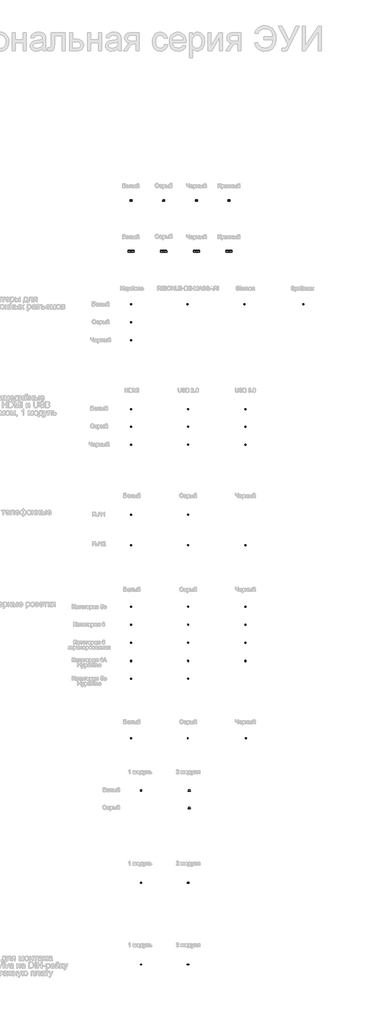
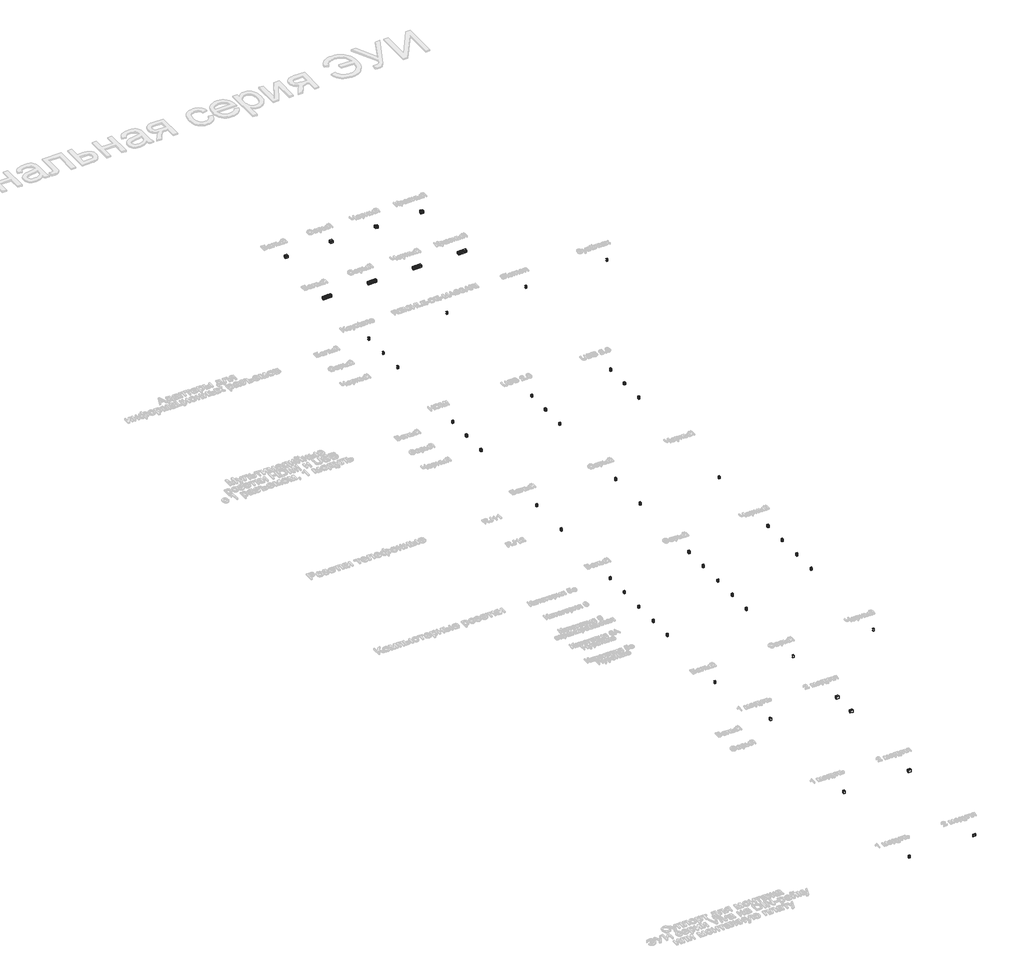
# One storey, part 1 of 15: 80 proxies.
"""IFC4 building model written with IfcOpenShell, lengths in millimetres."""

from ifc_helpers import new_model, si_unit, origin, place, context, project, spatial, transform, mapped, element, save
from components import electrical_fixtures_a915245d, electrical_fixtures_907d9c87, electrical_fixtures_2199573e, electrical_fixtures_535c511b, electrical_fixtures_a8bc6f34, electrical_fixtures_6e8f248d, electrical_fixtures_41765ffb, electrical_fixtures_416891ac, electrical_fixtures_3dbf6029, electrical_fixtures_d7c70531, electrical_fixtures_630f2619, hdmi_7d67e353, hdmi_d8834771, rj_11_aab4ea7d, rj_12_3b4863d1, rj_12_b521d4fd

model = new_model("IFC4")

# Units and contexts
model_context = context("Model", 3, world=origin())
ifc_project = project(units=[si_unit("LENGTHUNIT", "METRE", prefix="MILLI")], contexts=[model_context])

# Site, building, storey
site = spatial("IfcSite", under=ifc_project)
building = spatial("IfcBuilding", under=site)
storey = spatial("IfcBuildingStorey", under=building, Name="Этаж 01", Elevation=0.0)

# Proxies
placement = place(None, origin())
electrical_fixtures_shape = electrical_fixtures_a915245d(model_context)
element("IfcBuildingElementProxy", 1, Name="КНС_Заглушки_DKC : Заглушки", ObjectType="КНС_Заглушки_DKC : Заглушки", at=placement, inside=storey, context=model_context, shape_type="MappedRepresentation", body=[
    mapped(electrical_fixtures_shape, transform((1508.9782666, -8863.1806347, 0.0), x_axis=(1.0, 0.0, 0.0), y_axis=(0.0, 1.0, 0.0), z_axis=(0.0, 0.0, 1.0))),
])
electrical_fixtures_2_shape = electrical_fixtures_907d9c87(model_context)
element("IfcBuildingElementProxy", 2, Name="КНС_АдаптерыДляИнформационныхРазъемов_DKC : Keystone", ObjectType="КНС_АдаптерыДляИнформационныхРазъемов_DKC : Keystone", at=placement, inside=storey, context=model_context, shape_type="MappedRepresentation", body=[
    mapped(electrical_fixtures_2_shape, transform((1508.9782666, 1761.0446766, 0.0), x_axis=(1.0, 0.0, 0.0), y_axis=(0.0, 1.0, 0.0), z_axis=(0.0, 0.0, 1.0))),
])
element("IfcBuildingElementProxy", 3, Name="КНС_АдаптерыДляИнформационныхРазъемов_DKC : Systimax", ObjectType="КНС_АдаптерыДляИнформационныхРазъемов_DKC : Systimax", at=placement, inside=storey, context=model_context, shape_type="MappedRepresentation", body=[
    mapped(electrical_fixtures_2_shape, transform((5730.5654092, 1761.0446766, 0.0), x_axis=(1.0, 0.0, 0.0), y_axis=(0.0, 1.0, 0.0), z_axis=(0.0, 0.0, 1.0))),
])
element("IfcBuildingElementProxy", 4, Name="КНС_АдаптерыДляИнформационныхРазъемов_DKC : Siemon", ObjectType="КНС_АдаптерыДляИнформационныхРазъемов_DKC : Siemon", at=placement, inside=storey, context=model_context, shape_type="MappedRepresentation", body=[
    mapped(electrical_fixtures_2_shape, transform((4289.7768029, 1761.0446766, 0.0), x_axis=(1.0, 0.0, 0.0), y_axis=(0.0, 1.0, 0.0), z_axis=(0.0, 0.0, 1.0))),
])
element("IfcBuildingElementProxy", 5, Name="КНС_АдаптерыДляИнформационныхРазъемов_DKC : REICHLE-DE-MASSARI", ObjectType="КНС_АдаптерыДляИнформационныхРазъемов_DKC : REICHLE-DE-MASSARI", at=placement, inside=storey, context=model_context, shape_type="MappedRepresentation", body=[
    mapped(electrical_fixtures_2_shape, transform((2890.7972031, 1761.0446766, 0.0), x_axis=(1.0, 0.0, 0.0), y_axis=(0.0, 1.0, 0.0), z_axis=(0.0, 0.0, 1.0))),
])
electrical_fixtures_3_shape = electrical_fixtures_2199573e(model_context)
element("IfcBuildingElementProxy", 6, Name="КНС_Выключатели_DKC : 1 модуль", ObjectType="КНС_Выключатели_DKC : 1 модуль", at=placement, inside=storey, context=model_context, shape_type="MappedRepresentation", body=[
    mapped(electrical_fixtures_3_shape, transform((1755.5273557, -10143.564597, 0.0), x_axis=(1.0, 0.0, 0.0), y_axis=(0.0, 1.0, 0.0), z_axis=(0.0, 0.0, 1.0))),
])
electrical_fixtures_4_shape = electrical_fixtures_535c511b(model_context)
element("IfcBuildingElementProxy", 7, Name="КНС_Выключатели_DKC : 2 модуля", ObjectType="КНС_Выключатели_DKC : 2 модуля", at=placement, inside=storey, context=model_context, shape_type="MappedRepresentation", body=[
    mapped(electrical_fixtures_4_shape, transform((2934.3936482, -10143.564597, 0.0), x_axis=(1.0, 0.0, 0.0), y_axis=(0.0, 1.0, 0.0), z_axis=(0.0, 0.0, 1.0))),
])
electrical_fixtures_5_shape = electrical_fixtures_a8bc6f34(model_context)
element("IfcBuildingElementProxy", 8, Name="КНС_КомпьютерныеРозетки_DKC : Категория 5e", ObjectType="КНС_КомпьютерныеРозетки_DKC : Категория 5e", at=placement, inside=storey, context=model_context, shape_type="MappedRepresentation", body=[
    mapped(electrical_fixtures_5_shape, transform((1508.9782666, -5647.7205404, 0.0), x_axis=(1.0, 0.0, 0.0), y_axis=(0.0, 1.0, 0.0), z_axis=(0.0, 0.0, 1.0))),
])
element("IfcBuildingElementProxy", 9, Name="КНС_КомпьютерныеРозетки_DKC : Категория 6", ObjectType="КНС_КомпьютерныеРозетки_DKC : Категория 6", at=placement, inside=storey, context=model_context, shape_type="MappedRepresentation", body=[
    mapped(electrical_fixtures_5_shape, transform((1508.9782666, -6081.5749536, 0.0), x_axis=(1.0, 0.0, 0.0), y_axis=(0.0, 1.0, 0.0), z_axis=(0.0, 0.0, 1.0))),
])
element("IfcBuildingElementProxy", 10, Name="КНС_КомпьютерныеРозетки_DKC : Категория 6 экранированная", ObjectType="КНС_КомпьютерныеРозетки_DKC : Категория 6 экранированная", at=placement, inside=storey, context=model_context, shape_type="MappedRepresentation", body=[
    mapped(electrical_fixtures_5_shape, transform((1508.9782666, -6533.7728427, 0.0), x_axis=(1.0, 0.0, 0.0), y_axis=(0.0, 1.0, 0.0), z_axis=(0.0, 0.0, 1.0))),
])
element("IfcBuildingElementProxy", 11, Name="КНС_Переключатели_DKC : 1 модуль", ObjectType="КНС_Переключатели_DKC : 1 модуль", at=placement, inside=storey, context=model_context, shape_type="MappedRepresentation", body=[
    mapped(electrical_fixtures_3_shape, transform((1755.5273557, -12399.5827083, 0.0), x_axis=(1.0, 0.0, 0.0), y_axis=(0.0, 1.0, 0.0), z_axis=(0.0, 0.0, 1.0))),
])
element("IfcBuildingElementProxy", 12, Name="КНС_Переключатели_DKC : 2 модуля", ObjectType="КНС_Переключатели_DKC : 2 модуля", at=placement, inside=storey, context=model_context, shape_type="MappedRepresentation", body=[
    mapped(electrical_fixtures_4_shape, transform((2908.9782666, -12399.5827083, 0.0), x_axis=(1.0, 0.0, 0.0), y_axis=(0.0, 1.0, 0.0), z_axis=(0.0, 0.0, 1.0))),
])
electrical_fixtures_6_shape = electrical_fixtures_6e8f248d(model_context)
element("IfcBuildingElementProxy", 13, Name="КНС_СиловыеЭлектрическиеРозеткиШтекерныеСЗаземлениемИСоШторками_DKC : Белый", ObjectType="КНС_СиловыеЭлектрическиеРозеткиШтекерныеСЗаземлениемИСоШторками_DKC : Белый", at=placement, inside=storey, context=model_context, shape_type="MappedRepresentation", body=[
    mapped(electrical_fixtures_6_shape, transform((1508.9782666, 4310.1009019, 0.0), x_axis=(1.0, 0.0, 0.0), y_axis=(0.0, 1.0, 0.0), z_axis=(0.0, 0.0, 1.0))),
])
element("IfcBuildingElementProxy", 14, Name="КНС_СиловыеЭлектрическиеРозеткиШтекерныеСЗаземлениемИСоШторками_DKC : Красный", ObjectType="КНС_СиловыеЭлектрическиеРозеткиШтекерныеСЗаземлениемИСоШторками_DKC : Красный", at=placement, inside=storey, context=model_context, shape_type="MappedRepresentation", body=[
    mapped(electrical_fixtures_6_shape, transform((3908.9782666, 4310.1009019, 0.0), x_axis=(1.0, 0.0, 0.0), y_axis=(0.0, 1.0, 0.0), z_axis=(0.0, 0.0, 1.0))),
])
element("IfcBuildingElementProxy", 15, Name="КНС_СиловыеЭлектрическиеРозеткиШтекерныеСЗаземлениемИСоШторками_DKC : Серый", ObjectType="КНС_СиловыеЭлектрическиеРозеткиШтекерныеСЗаземлениемИСоШторками_DKC : Серый", at=placement, inside=storey, context=model_context, shape_type="MappedRepresentation", body=[
    mapped(electrical_fixtures_6_shape, transform((2308.9782666, 4310.1009019, 0.0), x_axis=(1.0, 0.0, 0.0), y_axis=(0.0, 1.0, 0.0), z_axis=(0.0, 0.0, 1.0))),
])
element("IfcBuildingElementProxy", 16, Name="КНС_СиловыеЭлектрическиеРозеткиШтекерныеСЗаземлениемИСоШторками_DKC : Черный", ObjectType="КНС_СиловыеЭлектрическиеРозеткиШтекерныеСЗаземлениемИСоШторками_DKC : Черный", at=placement, inside=storey, context=model_context, shape_type="MappedRepresentation", body=[
    mapped(electrical_fixtures_6_shape, transform((3108.9782666, 4310.1009019, 0.0), x_axis=(1.0, 0.0, 0.0), y_axis=(0.0, 1.0, 0.0), z_axis=(0.0, 0.0, 1.0))),
])
electrical_fixtures_7_shape = electrical_fixtures_41765ffb(model_context)
element("IfcBuildingElementProxy", 17, Name="КНС_СуппортДляМонтажаЭУИСерииVivaНаDIN-рейкуИлиМонтажнуюПлату_DKC : 2 модуля", ObjectType="КНС_СуппортДляМонтажаЭУИСерииVivaНаDIN-рейкуИлиМонтажнуюПлату_DKC : 2 модуля", at=placement, inside=storey, context=model_context, shape_type="MappedRepresentation", body=[
    mapped(electrical_fixtures_7_shape, transform((2908.9782666, -14424.2553633, 0.0), x_axis=(1.0, 0.0, 0.0), y_axis=(0.0, 1.0, 0.0), z_axis=(0.0, 0.0, 1.0))),
])
electrical_fixtures_8_shape = electrical_fixtures_416891ac(model_context)
element("IfcBuildingElementProxy", 18, Name="КНС_СуппортДляМонтажаЭУИСерииVivaНаDIN-рейкуИлиМонтажнуюПлату_DKC : 1 модуль", ObjectType="КНС_СуппортДляМонтажаЭУИСерииVivaНаDIN-рейкуИлиМонтажнуюПлату_DKC : 1 модуль", at=placement, inside=storey, context=model_context, shape_type="MappedRepresentation", body=[
    mapped(electrical_fixtures_8_shape, transform((1508.9782666, -5659.7205404, 0.0), x_axis=(1.0, 0.0, 0.0), y_axis=(0.0, 1.0, 0.0), z_axis=(0.0, 0.0, 1.0))),
])
element("IfcBuildingElementProxy", 19, Name="КНС_СуппортДляМонтажаЭУИСерииVivaНаDIN-рейкуИлиМонтажнуюПлату_DKC : 1 модуль", ObjectType="КНС_СуппортДляМонтажаЭУИСерииVivaНаDIN-рейкуИлиМонтажнуюПлату_DKC : 1 модуль", at=placement, inside=storey, context=model_context, shape_type="MappedRepresentation", body=[
    mapped(electrical_fixtures_8_shape, transform((1508.9782666, -826.6427411, 0.0), x_axis=(1.0, 0.0, 0.0), y_axis=(0.0, 1.0, 0.0), z_axis=(0.0, 0.0, 1.0))),
])
element("IfcBuildingElementProxy", 20, Name="КНС_СуппортДляМонтажаЭУИСерииVivaНаDIN-рейкуИлиМонтажнуюПлату_DKC : 1 модуль", ObjectType="КНС_СуппортДляМонтажаЭУИСерииVivaНаDIN-рейкуИлиМонтажнуюПлату_DKC : 1 модуль", at=placement, inside=storey, context=model_context, shape_type="MappedRepresentation", body=[
    mapped(electrical_fixtures_8_shape, transform((1508.9782666, -3403.3547426, 0.0), x_axis=(1.0, 0.0, 0.0), y_axis=(0.0, 1.0, 0.0), z_axis=(0.0, 0.0, 1.0))),
])
element("IfcBuildingElementProxy", 21, Name="КНС_СуппортДляМонтажаЭУИСерииVivaНаDIN-рейкуИлиМонтажнуюПлату_DKC : 1 модуль", ObjectType="КНС_СуппортДляМонтажаЭУИСерииVivaНаDIN-рейкуИлиМонтажнуюПлату_DKC : 1 модуль", at=placement, inside=storey, context=model_context, shape_type="MappedRepresentation", body=[
    mapped(electrical_fixtures_8_shape, transform((2908.9782666, -5659.7205404, 0.0), x_axis=(1.0, 0.0, 0.0), y_axis=(0.0, 1.0, 0.0), z_axis=(0.0, 0.0, 1.0))),
])
element("IfcBuildingElementProxy", 22, Name="КНС_СуппортДляМонтажаЭУИСерииVivaНаDIN-рейкуИлиМонтажнуюПлату_DKC : 1 модуль", ObjectType="КНС_СуппортДляМонтажаЭУИСерииVivaНаDIN-рейкуИлиМонтажнуюПлату_DKC : 1 модуль", at=placement, inside=storey, context=model_context, shape_type="MappedRepresentation", body=[
    mapped(electrical_fixtures_8_shape, transform((4308.9782666, -5659.7205404, 0.0), x_axis=(1.0, 0.0, 0.0), y_axis=(0.0, 1.0, 0.0), z_axis=(0.0, 0.0, 1.0))),
])
element("IfcBuildingElementProxy", 23, Name="КНС_СуппортДляМонтажаЭУИСерииVivaНаDIN-рейкуИлиМонтажнуюПлату_DKC : 1 модуль", ObjectType="КНС_СуппортДляМонтажаЭУИСерииVivaНаDIN-рейкуИлиМонтажнуюПлату_DKC : 1 модуль", at=placement, inside=storey, context=model_context, shape_type="MappedRepresentation", body=[
    mapped(electrical_fixtures_8_shape, transform((1508.9782666, -6093.5749536, 0.0), x_axis=(1.0, 0.0, 0.0), y_axis=(0.0, 1.0, 0.0), z_axis=(0.0, 0.0, 1.0))),
])
element("IfcBuildingElementProxy", 24, Name="КНС_СуппортДляМонтажаЭУИСерииVivaНаDIN-рейкуИлиМонтажнуюПлату_DKC : 1 модуль", ObjectType="КНС_СуппортДляМонтажаЭУИСерииVivaНаDIN-рейкуИлиМонтажнуюПлату_DKC : 1 модуль", at=placement, inside=storey, context=model_context, shape_type="MappedRepresentation", body=[
    mapped(electrical_fixtures_8_shape, transform((2908.9782666, -6093.5749536, 0.0), x_axis=(1.0, 0.0, 0.0), y_axis=(0.0, 1.0, 0.0), z_axis=(0.0, 0.0, 1.0))),
])
element("IfcBuildingElementProxy", 25, Name="КНС_СуппортДляМонтажаЭУИСерииVivaНаDIN-рейкуИлиМонтажнуюПлату_DKC : 1 модуль", ObjectType="КНС_СуппортДляМонтажаЭУИСерииVivaНаDIN-рейкуИлиМонтажнуюПлату_DKC : 1 модуль", at=placement, inside=storey, context=model_context, shape_type="MappedRepresentation", body=[
    mapped(electrical_fixtures_8_shape, transform((4308.9782666, -6093.5749536, 0.0), x_axis=(1.0, 0.0, 0.0), y_axis=(0.0, 1.0, 0.0), z_axis=(0.0, 0.0, 1.0))),
])
element("IfcBuildingElementProxy", 26, Name="КНС_СуппортДляМонтажаЭУИСерииVivaНаDIN-рейкуИлиМонтажнуюПлату_DKC : 1 модуль", ObjectType="КНС_СуппортДляМонтажаЭУИСерииVivaНаDIN-рейкуИлиМонтажнуюПлату_DKC : 1 модуль", at=placement, inside=storey, context=model_context, shape_type="MappedRepresentation", body=[
    mapped(electrical_fixtures_8_shape, transform((1508.9782666, -6545.7728427, 0.0), x_axis=(1.0, 0.0, 0.0), y_axis=(0.0, 1.0, 0.0), z_axis=(0.0, 0.0, 1.0))),
])
element("IfcBuildingElementProxy", 27, Name="КНС_СуппортДляМонтажаЭУИСерииVivaНаDIN-рейкуИлиМонтажнуюПлату_DKC : 1 модуль", ObjectType="КНС_СуппортДляМонтажаЭУИСерииVivaНаDIN-рейкуИлиМонтажнуюПлату_DKC : 1 модуль", at=placement, inside=storey, context=model_context, shape_type="MappedRepresentation", body=[
    mapped(electrical_fixtures_8_shape, transform((2908.9782666, -6545.7728427, 0.0), x_axis=(1.0, 0.0, 0.0), y_axis=(0.0, 1.0, 0.0), z_axis=(0.0, 0.0, 1.0))),
])
element("IfcBuildingElementProxy", 28, Name="КНС_СуппортДляМонтажаЭУИСерииVivaНаDIN-рейкуИлиМонтажнуюПлату_DKC : 1 модуль", ObjectType="КНС_СуппортДляМонтажаЭУИСерииVivaНаDIN-рейкуИлиМонтажнуюПлату_DKC : 1 модуль", at=placement, inside=storey, context=model_context, shape_type="MappedRepresentation", body=[
    mapped(electrical_fixtures_8_shape, transform((4308.9782666, -6545.7728427, 0.0), x_axis=(1.0, 0.0, 0.0), y_axis=(0.0, 1.0, 0.0), z_axis=(0.0, 0.0, 1.0))),
])
element("IfcBuildingElementProxy", 29, Name="КНС_СуппортДляМонтажаЭУИСерииVivaНаDIN-рейкуИлиМонтажнуюПлату_DKC : 1 модуль", ObjectType="КНС_СуппортДляМонтажаЭУИСерииVivaНаDIN-рейкуИлиМонтажнуюПлату_DKC : 1 модуль", at=placement, inside=storey, context=model_context, shape_type="MappedRepresentation", body=[
    mapped(electrical_fixtures_8_shape, transform((1508.9782666, -6986.7384071, 0.0), x_axis=(1.0, 0.0, 0.0), y_axis=(0.0, 1.0, 0.0), z_axis=(0.0, 0.0, 1.0))),
])
element("IfcBuildingElementProxy", 30, Name="КНС_СуппортДляМонтажаЭУИСерииVivaНаDIN-рейкуИлиМонтажнуюПлату_DKC : 1 модуль", ObjectType="КНС_СуппортДляМонтажаЭУИСерииVivaНаDIN-рейкуИлиМонтажнуюПлату_DKC : 1 модуль", at=placement, inside=storey, context=model_context, shape_type="MappedRepresentation", body=[
    mapped(electrical_fixtures_8_shape, transform((2908.9782666, -6986.7384071, 0.0), x_axis=(1.0, 0.0, 0.0), y_axis=(0.0, 1.0, 0.0), z_axis=(0.0, 0.0, 1.0))),
])
element("IfcBuildingElementProxy", 31, Name="КНС_СуппортДляМонтажаЭУИСерииVivaНаDIN-рейкуИлиМонтажнуюПлату_DKC : 1 модуль", ObjectType="КНС_СуппортДляМонтажаЭУИСерииVivaНаDIN-рейкуИлиМонтажнуюПлату_DKC : 1 модуль", at=placement, inside=storey, context=model_context, shape_type="MappedRepresentation", body=[
    mapped(electrical_fixtures_8_shape, transform((4308.9782666, -6986.7384071, 0.0), x_axis=(1.0, 0.0, 0.0), y_axis=(0.0, 1.0, 0.0), z_axis=(0.0, 0.0, 1.0))),
])
element("IfcBuildingElementProxy", 32, Name="КНС_СуппортДляМонтажаЭУИСерииVivaНаDIN-рейкуИлиМонтажнуюПлату_DKC : 1 модуль", ObjectType="КНС_СуппортДляМонтажаЭУИСерииVivaНаDIN-рейкуИлиМонтажнуюПлату_DKC : 1 модуль", at=placement, inside=storey, context=model_context, shape_type="MappedRepresentation", body=[
    mapped(electrical_fixtures_8_shape, transform((1508.9782666, -7420.534342, 0.0), x_axis=(1.0, 0.0, 0.0), y_axis=(0.0, 1.0, 0.0), z_axis=(0.0, 0.0, 1.0))),
])
element("IfcBuildingElementProxy", 33, Name="КНС_СуппортДляМонтажаЭУИСерииVivaНаDIN-рейкуИлиМонтажнуюПлату_DKC : 1 модуль", ObjectType="КНС_СуппортДляМонтажаЭУИСерииVivaНаDIN-рейкуИлиМонтажнуюПлату_DKC : 1 модуль", at=placement, inside=storey, context=model_context, shape_type="MappedRepresentation", body=[
    mapped(electrical_fixtures_8_shape, transform((2908.9782666, -7420.534342, 0.0), x_axis=(1.0, 0.0, 0.0), y_axis=(0.0, 1.0, 0.0), z_axis=(0.0, 0.0, 1.0))),
])
element("IfcBuildingElementProxy", 34, Name="КНС_СуппортДляМонтажаЭУИСерииVivaНаDIN-рейкуИлиМонтажнуюПлату_DKC : 1 модуль", ObjectType="КНС_СуппортДляМонтажаЭУИСерииVivaНаDIN-рейкуИлиМонтажнуюПлату_DKC : 1 модуль", at=placement, inside=storey, context=model_context, shape_type="MappedRepresentation", body=[
    mapped(electrical_fixtures_8_shape, transform((1508.9782666, -1251.0167031, 0.0), x_axis=(1.0, 0.0, 0.0), y_axis=(0.0, 1.0, 0.0), z_axis=(0.0, 0.0, 1.0))),
])
element("IfcBuildingElementProxy", 35, Name="КНС_СуппортДляМонтажаЭУИСерииVivaНаDIN-рейкуИлиМонтажнуюПлату_DKC : 1 модуль", ObjectType="КНС_СуппортДляМонтажаЭУИСерииVivaНаDIN-рейкуИлиМонтажнуюПлату_DKC : 1 модуль", at=placement, inside=storey, context=model_context, shape_type="MappedRepresentation", body=[
    mapped(electrical_fixtures_8_shape, transform((1508.9782666, -1694.0322458, 0.0), x_axis=(1.0, 0.0, 0.0), y_axis=(0.0, 1.0, 0.0), z_axis=(0.0, 0.0, 1.0))),
])
element("IfcBuildingElementProxy", 36, Name="КНС_СуппортДляМонтажаЭУИСерииVivaНаDIN-рейкуИлиМонтажнуюПлату_DKC : 1 модуль", ObjectType="КНС_СуппортДляМонтажаЭУИСерииVivaНаDIN-рейкуИлиМонтажнуюПлату_DKC : 1 модуль", at=placement, inside=storey, context=model_context, shape_type="MappedRepresentation", body=[
    mapped(electrical_fixtures_8_shape, transform((2908.9782666, -826.6427411, 0.0), x_axis=(1.0, 0.0, 0.0), y_axis=(0.0, 1.0, 0.0), z_axis=(0.0, 0.0, 1.0))),
])
element("IfcBuildingElementProxy", 37, Name="КНС_СуппортДляМонтажаЭУИСерииVivaНаDIN-рейкуИлиМонтажнуюПлату_DKC : 1 модуль", ObjectType="КНС_СуппортДляМонтажаЭУИСерииVivaНаDIN-рейкуИлиМонтажнуюПлату_DKC : 1 модуль", at=placement, inside=storey, context=model_context, shape_type="MappedRepresentation", body=[
    mapped(electrical_fixtures_8_shape, transform((2908.9782666, -1251.0167031, 0.0), x_axis=(1.0, 0.0, 0.0), y_axis=(0.0, 1.0, 0.0), z_axis=(0.0, 0.0, 1.0))),
])
element("IfcBuildingElementProxy", 38, Name="КНС_СуппортДляМонтажаЭУИСерииVivaНаDIN-рейкуИлиМонтажнуюПлату_DKC : 1 модуль", ObjectType="КНС_СуппортДляМонтажаЭУИСерииVivaНаDIN-рейкуИлиМонтажнуюПлату_DKC : 1 модуль", at=placement, inside=storey, context=model_context, shape_type="MappedRepresentation", body=[
    mapped(electrical_fixtures_8_shape, transform((2908.9782666, -1694.0322458, 0.0), x_axis=(1.0, 0.0, 0.0), y_axis=(0.0, 1.0, 0.0), z_axis=(0.0, 0.0, 1.0))),
])
element("IfcBuildingElementProxy", 39, Name="КНС_СуппортДляМонтажаЭУИСерииVivaНаDIN-рейкуИлиМонтажнуюПлату_DKC : 1 модуль", ObjectType="КНС_СуппортДляМонтажаЭУИСерииVivaНаDIN-рейкуИлиМонтажнуюПлату_DKC : 1 модуль", at=placement, inside=storey, context=model_context, shape_type="MappedRepresentation", body=[
    mapped(electrical_fixtures_8_shape, transform((4308.9782666, -1251.0167031, 0.0), x_axis=(1.0, 0.0, 0.0), y_axis=(0.0, 1.0, 0.0), z_axis=(0.0, 0.0, 1.0))),
])
element("IfcBuildingElementProxy", 40, Name="КНС_СуппортДляМонтажаЭУИСерииVivaНаDIN-рейкуИлиМонтажнуюПлату_DKC : 1 модуль", ObjectType="КНС_СуппортДляМонтажаЭУИСерииVivaНаDIN-рейкуИлиМонтажнуюПлату_DKC : 1 модуль", at=placement, inside=storey, context=model_context, shape_type="MappedRepresentation", body=[
    mapped(electrical_fixtures_8_shape, transform((4308.9782666, -1694.0322458, 0.0), x_axis=(1.0, 0.0, 0.0), y_axis=(0.0, 1.0, 0.0), z_axis=(0.0, 0.0, 1.0))),
])
element("IfcBuildingElementProxy", 41, Name="КНС_СуппортДляМонтажаЭУИСерииVivaНаDIN-рейкуИлиМонтажнуюПлату_DKC : 1 модуль", ObjectType="КНС_СуппортДляМонтажаЭУИСерииVivaНаDIN-рейкуИлиМонтажнуюПлату_DKC : 1 модуль", at=placement, inside=storey, context=model_context, shape_type="MappedRepresentation", body=[
    mapped(electrical_fixtures_8_shape, transform((2908.9782666, -3403.3547426, 0.0), x_axis=(1.0, 0.0, 0.0), y_axis=(0.0, 1.0, 0.0), z_axis=(0.0, 0.0, 1.0))),
])
element("IfcBuildingElementProxy", 42, Name="КНС_СуппортДляМонтажаЭУИСерииVivaНаDIN-рейкуИлиМонтажнуюПлату_DKC : 1 модуль", ObjectType="КНС_СуппортДляМонтажаЭУИСерииVivaНаDIN-рейкуИлиМонтажнуюПлату_DKC : 1 модуль", at=placement, inside=storey, context=model_context, shape_type="MappedRepresentation", body=[
    mapped(electrical_fixtures_8_shape, transform((1508.9782666, -4157.289695, 0.0), x_axis=(1.0, 0.0, 0.0), y_axis=(0.0, 1.0, 0.0), z_axis=(0.0, 0.0, 1.0))),
])
element("IfcBuildingElementProxy", 43, Name="КНС_СуппортДляМонтажаЭУИСерииVivaНаDIN-рейкуИлиМонтажнуюПлату_DKC : 1 модуль", ObjectType="КНС_СуппортДляМонтажаЭУИСерииVivaНаDIN-рейкуИлиМонтажнуюПлату_DKC : 1 модуль", at=placement, inside=storey, context=model_context, shape_type="MappedRepresentation", body=[
    mapped(electrical_fixtures_8_shape, transform((2908.9782666, -4157.289695, 0.0), x_axis=(1.0, 0.0, 0.0), y_axis=(0.0, 1.0, 0.0), z_axis=(0.0, 0.0, 1.0))),
])
element("IfcBuildingElementProxy", 44, Name="КНС_СуппортДляМонтажаЭУИСерииVivaНаDIN-рейкуИлиМонтажнуюПлату_DKC : 1 модуль", ObjectType="КНС_СуппортДляМонтажаЭУИСерииVivaНаDIN-рейкуИлиМонтажнуюПлату_DKC : 1 модуль", at=placement, inside=storey, context=model_context, shape_type="MappedRepresentation", body=[
    mapped(electrical_fixtures_8_shape, transform((4308.9782666, -4157.289695, 0.0), x_axis=(1.0, 0.0, 0.0), y_axis=(0.0, 1.0, 0.0), z_axis=(0.0, 0.0, 1.0))),
])
element("IfcBuildingElementProxy", 45, Name="КНС_СуппортДляМонтажаЭУИСерииVivaНаDIN-рейкуИлиМонтажнуюПлату_DKC : 1 модуль", ObjectType="КНС_СуппортДляМонтажаЭУИСерииVivaНаDIN-рейкуИлиМонтажнуюПлату_DKC : 1 модуль", at=placement, inside=storey, context=model_context, shape_type="MappedRepresentation", body=[
    mapped(electrical_fixtures_8_shape, transform((1755.5273557, -14424.2553633, 0.0), x_axis=(1.0, 0.0, 0.0), y_axis=(0.0, 1.0, 0.0), z_axis=(0.0, 0.0, 1.0))),
])
element("IfcBuildingElementProxy", 46, Name="КНС_СуппортДляМонтажаЭУИСерииVivaНаDIN-рейкуИлиМонтажнуюПлату_DKC : 1 модуль", ObjectType="КНС_СуппортДляМонтажаЭУИСерииVivaНаDIN-рейкуИлиМонтажнуюПлату_DKC : 1 модуль", at=placement, inside=storey, context=model_context, shape_type="MappedRepresentation", body=[
    mapped(electrical_fixtures_8_shape, transform((4308.9782666, -826.6427411, 0.0), x_axis=(1.0, 0.0, 0.0), y_axis=(0.0, 1.0, 0.0), z_axis=(0.0, 0.0, 1.0))),
])
electrical_fixtures_9_shape = electrical_fixtures_3dbf6029(model_context)
element("IfcBuildingElementProxy", 47, Name="КНС_ЭлектрическиеРозеткиШтекерныеСЗаземлениемИСоШторкамиМоноблок_DKC : Белый", ObjectType="КНС_ЭлектрическиеРозеткиШтекерныеСЗаземлениемИСоШторкамиМоноблок_DKC : Белый", at=placement, inside=storey, context=model_context, shape_type="MappedRepresentation", body=[
    mapped(electrical_fixtures_9_shape, transform((1508.9782666, 3063.3936211, 0.0), x_axis=(1.0, 0.0, 0.0), y_axis=(0.0, 1.0, 0.0), z_axis=(0.0, 0.0, 1.0))),
])
element("IfcBuildingElementProxy", 48, Name="КНС_ЭлектрическиеРозеткиШтекерныеСЗаземлениемИСоШторкамиМоноблок_DKC : Красный", ObjectType="КНС_ЭлектрическиеРозеткиШтекерныеСЗаземлениемИСоШторкамиМоноблок_DKC : Красный", at=placement, inside=storey, context=model_context, shape_type="MappedRepresentation", body=[
    mapped(electrical_fixtures_9_shape, transform((3908.9782666, 3063.3936211, 0.0), x_axis=(1.0, 0.0, 0.0), y_axis=(0.0, 1.0, 0.0), z_axis=(0.0, 0.0, 1.0))),
])
element("IfcBuildingElementProxy", 49, Name="КНС_ЭлектрическиеРозеткиШтекерныеСЗаземлениемИСоШторкамиМоноблок_DKC : Серый", ObjectType="КНС_ЭлектрическиеРозеткиШтекерныеСЗаземлениемИСоШторкамиМоноблок_DKC : Серый", at=placement, inside=storey, context=model_context, shape_type="MappedRepresentation", body=[
    mapped(electrical_fixtures_9_shape, transform((2308.9782666, 3063.3936211, 0.0), x_axis=(1.0, 0.0, 0.0), y_axis=(0.0, 1.0, 0.0), z_axis=(0.0, 0.0, 1.0))),
])
element("IfcBuildingElementProxy", 50, Name="КНС_ЭлектрическиеРозеткиШтекерныеСЗаземлениемИСоШторкамиМоноблок_DKC : Черный", ObjectType="КНС_ЭлектрическиеРозеткиШтекерныеСЗаземлениемИСоШторкамиМоноблок_DKC : Черный", at=placement, inside=storey, context=model_context, shape_type="MappedRepresentation", body=[
    mapped(electrical_fixtures_9_shape, transform((3108.9782666, 3063.3936211, 0.0), x_axis=(1.0, 0.0, 0.0), y_axis=(0.0, 1.0, 0.0), z_axis=(0.0, 0.0, 1.0))),
])
element("IfcBuildingElementProxy", 51, Name="КНС_Выключатели_DKC : 2 модуля", ObjectType="КНС_Выключатели_DKC : 2 модуля", at=placement, inside=storey, context=model_context, shape_type="MappedRepresentation", body=[
    mapped(electrical_fixtures_4_shape, transform((2934.3936482, -10573.9888548, 0.0), x_axis=(1.0, 0.0, 0.0), y_axis=(0.0, 1.0, 0.0), z_axis=(0.0, 0.0, 1.0))),
])
electrical_fixtures_10_shape = electrical_fixtures_d7c70531(model_context)
element("IfcBuildingElementProxy", 52, Name="КНС_АдаптерыДляИнформационныхРазъемов_DKC : Keystone", ObjectType="КНС_АдаптерыДляИнформационныхРазъемов_DKC : Keystone", at=placement, inside=storey, context=model_context, shape_type="MappedRepresentation", body=[
    mapped(electrical_fixtures_10_shape, transform((1508.9782666, 1320.9025095, 0.0), x_axis=(1.0, 0.0, 0.0), y_axis=(0.0, 1.0, 0.0), z_axis=(0.0, 0.0, 1.0))),
])
element("IfcBuildingElementProxy", 53, Name="КНС_АдаптерыДляИнформационныхРазъемов_DKC : Keystone", ObjectType="КНС_АдаптерыДляИнформационныхРазъемов_DKC : Keystone", at=placement, inside=storey, context=model_context, shape_type="MappedRepresentation", body=[
    mapped(electrical_fixtures_10_shape, transform((1508.9782666, 881.0034379, 0.0), x_axis=(1.0, 0.0, 0.0), y_axis=(0.0, 1.0, 0.0), z_axis=(0.0, 0.0, 1.0))),
])
element("IfcBuildingElementProxy", 54, Name="КНС_Заглушки_DKC : Заглушки", ObjectType="КНС_Заглушки_DKC : Заглушки", at=placement, inside=storey, context=model_context, shape_type="MappedRepresentation", body=[
    mapped(electrical_fixtures_shape, transform((2896.4782666, -8863.1806347, 0.0), x_axis=(1.0, 0.0, 0.0), y_axis=(0.0, 1.0, 0.0), z_axis=(0.0, 0.0, 1.0))),
])
element("IfcBuildingElementProxy", 55, Name="КНС_Заглушки_DKC : Заглушки", ObjectType="КНС_Заглушки_DKC : Заглушки", at=placement, inside=storey, context=model_context, shape_type="MappedRepresentation", body=[
    mapped(electrical_fixtures_shape, transform((4321.4782666, -8863.1806347, 0.0), x_axis=(1.0, 0.0, 0.0), y_axis=(0.0, 1.0, 0.0), z_axis=(0.0, 0.0, 1.0))),
])
electrical_fixtures_11_shape = electrical_fixtures_630f2619(model_context)
element("IfcBuildingElementProxy", 56, Name="КНС_КомпьютерныеРозетки_DKC : Категория 5e", ObjectType="КНС_КомпьютерныеРозетки_DKC : Категория 5e", at=placement, inside=storey, context=model_context, shape_type="MappedRepresentation", body=[
    mapped(electrical_fixtures_11_shape, transform((2908.9782666, -5647.7205404, 0.0), x_axis=(1.0, 0.0, 0.0), y_axis=(0.0, 1.0, 0.0), z_axis=(0.0, 0.0, 1.0))),
])
element("IfcBuildingElementProxy", 57, Name="КНС_КомпьютерныеРозетки_DKC : Категория 5e", ObjectType="КНС_КомпьютерныеРозетки_DKC : Категория 5e", at=placement, inside=storey, context=model_context, shape_type="MappedRepresentation", body=[
    mapped(electrical_fixtures_11_shape, transform((4308.9782666, -5647.7205404, 0.0), x_axis=(1.0, 0.0, 0.0), y_axis=(0.0, 1.0, 0.0), z_axis=(0.0, 0.0, 1.0))),
])
element("IfcBuildingElementProxy", 58, Name="КНС_КомпьютерныеРозетки_DKC : Категория 6", ObjectType="КНС_КомпьютерныеРозетки_DKC : Категория 6", at=placement, inside=storey, context=model_context, shape_type="MappedRepresentation", body=[
    mapped(electrical_fixtures_11_shape, transform((2908.9782666, -6081.5749536, 0.0), x_axis=(1.0, 0.0, 0.0), y_axis=(0.0, 1.0, 0.0), z_axis=(0.0, 0.0, 1.0))),
])
element("IfcBuildingElementProxy", 59, Name="КНС_КомпьютерныеРозетки_DKC : Категория 6", ObjectType="КНС_КомпьютерныеРозетки_DKC : Категория 6", at=placement, inside=storey, context=model_context, shape_type="MappedRepresentation", body=[
    mapped(electrical_fixtures_11_shape, transform((4308.9782666, -6081.5749536, 0.0), x_axis=(1.0, 0.0, 0.0), y_axis=(0.0, 1.0, 0.0), z_axis=(0.0, 0.0, 1.0))),
])
element("IfcBuildingElementProxy", 60, Name="КНС_КомпьютерныеРозетки_DKC : Категория 6 экранированная", ObjectType="КНС_КомпьютерныеРозетки_DKC : Категория 6 экранированная", at=placement, inside=storey, context=model_context, shape_type="MappedRepresentation", body=[
    mapped(electrical_fixtures_11_shape, transform((2908.9782666, -6533.7728427, 0.0), x_axis=(1.0, 0.0, 0.0), y_axis=(0.0, 1.0, 0.0), z_axis=(0.0, 0.0, 1.0))),
])
element("IfcBuildingElementProxy", 61, Name="КНС_КомпьютерныеРозетки_DKC : Категория 6 экранированная", ObjectType="КНС_КомпьютерныеРозетки_DKC : Категория 6 экранированная", at=placement, inside=storey, context=model_context, shape_type="MappedRepresentation", body=[
    mapped(electrical_fixtures_11_shape, transform((4308.9782666, -6533.7728427, 0.0), x_axis=(1.0, 0.0, 0.0), y_axis=(0.0, 1.0, 0.0), z_axis=(0.0, 0.0, 1.0))),
])
element("IfcBuildingElementProxy", 62, Name="КНС_КомпьютерныеРозетки_DKC : Категория 6А", ObjectType="КНС_КомпьютерныеРозетки_DKC : Категория 6А", at=placement, inside=storey, context=model_context, shape_type="MappedRepresentation", body=[
    mapped(electrical_fixtures_5_shape, transform((1508.9782666, -6974.7384071, 0.0), x_axis=(1.0, 0.0, 0.0), y_axis=(0.0, 1.0, 0.0), z_axis=(0.0, 0.0, 1.0))),
])
element("IfcBuildingElementProxy", 63, Name="КНС_КомпьютерныеРозетки_DKC : Категория 6А", ObjectType="КНС_КомпьютерныеРозетки_DKC : Категория 6А", at=placement, inside=storey, context=model_context, shape_type="MappedRepresentation", body=[
    mapped(electrical_fixtures_11_shape, transform((2908.9782666, -6974.7384071, 0.0), x_axis=(1.0, 0.0, 0.0), y_axis=(0.0, 1.0, 0.0), z_axis=(0.0, 0.0, 1.0))),
])
element("IfcBuildingElementProxy", 64, Name="КНС_КомпьютерныеРозетки_DKC : Категория 6А", ObjectType="КНС_КомпьютерныеРозетки_DKC : Категория 6А", at=placement, inside=storey, context=model_context, shape_type="MappedRepresentation", body=[
    mapped(electrical_fixtures_11_shape, transform((4308.9782666, -6974.7384071, 0.0), x_axis=(1.0, 0.0, 0.0), y_axis=(0.0, 1.0, 0.0), z_axis=(0.0, 0.0, 1.0))),
])
element("IfcBuildingElementProxy", 65, Name="КНС_КомпьютерныеРозетки_DKC : Категория 5e", ObjectType="КНС_КомпьютерныеРозетки_DKC : Категория 5e", at=placement, inside=storey, context=model_context, shape_type="MappedRepresentation", body=[
    mapped(electrical_fixtures_5_shape, transform((1508.9782666, -7408.534342, 0.0), x_axis=(1.0, 0.0, 0.0), y_axis=(0.0, 1.0, 0.0), z_axis=(0.0, 0.0, 1.0))),
])
element("IfcBuildingElementProxy", 66, Name="КНС_КомпьютерныеРозетки_DKC : Категория 5e", ObjectType="КНС_КомпьютерныеРозетки_DKC : Категория 5e", at=placement, inside=storey, context=model_context, shape_type="MappedRepresentation", body=[
    mapped(electrical_fixtures_11_shape, transform((2908.9782666, -7408.534342, 0.0), x_axis=(1.0, 0.0, 0.0), y_axis=(0.0, 1.0, 0.0), z_axis=(0.0, 0.0, 1.0))),
])
hdmi_shape = hdmi_7d67e353(model_context)
element("IfcBuildingElementProxy", 67, Name="КНС_МультимедийныеРозеткиHDMIиUSBс1разъемом1модуль_DKC : HDMI", ObjectType="КНС_МультимедийныеРозеткиHDMIиUSBс1разъемом1модуль_DKC : HDMI", at=placement, inside=storey, context=model_context, shape_type="MappedRepresentation", body=[
    mapped(hdmi_shape, transform((1508.9782666, -814.6427411, 0.0), x_axis=(1.0, 0.0, 0.0), y_axis=(0.0, 1.0, 0.0), z_axis=(0.0, 0.0, 1.0))),
])
hdmi_2_shape = hdmi_d8834771(model_context)
element("IfcBuildingElementProxy", 68, Name="КНС_МультимедийныеРозеткиHDMIиUSBс1разъемом1модуль_DKC : HDMI", ObjectType="КНС_МультимедийныеРозеткиHDMIиUSBс1разъемом1модуль_DKC : HDMI", at=placement, inside=storey, context=model_context, shape_type="MappedRepresentation", body=[
    mapped(hdmi_2_shape, transform((1508.9782666, -1239.0167031, 0.0), x_axis=(1.0, 0.0, 0.0), y_axis=(0.0, 1.0, 0.0), z_axis=(0.0, 0.0, 1.0))),
])
element("IfcBuildingElementProxy", 69, Name="КНС_МультимедийныеРозеткиHDMIиUSBс1разъемом1модуль_DKC : HDMI", ObjectType="КНС_МультимедийныеРозеткиHDMIиUSBс1разъемом1модуль_DKC : HDMI", at=placement, inside=storey, context=model_context, shape_type="MappedRepresentation", body=[
    mapped(hdmi_2_shape, transform((1508.9782666, -1682.0322458, 0.0), x_axis=(1.0, 0.0, 0.0), y_axis=(0.0, 1.0, 0.0), z_axis=(0.0, 0.0, 1.0))),
])
element("IfcBuildingElementProxy", 70, Name="КНС_РозеткиТелефонные_DKC : RJ-11", ObjectType="КНС_РозеткиТелефонные_DKC : RJ-11", at=placement, inside=storey, context=model_context, shape_type="MappedRepresentation", body=[
    mapped(electrical_fixtures_5_shape, transform((1508.9782666, -3391.3547426, 0.0), x_axis=(1.0, 0.0, 0.0), y_axis=(0.0, 1.0, 0.0), z_axis=(0.0, 0.0, 1.0))),
])
rj_11_shape = rj_11_aab4ea7d(model_context)
element("IfcBuildingElementProxy", 71, Name="КНС_РозеткиТелефонные_DKC : RJ-11", ObjectType="КНС_РозеткиТелефонные_DKC : RJ-11", at=placement, inside=storey, context=model_context, shape_type="MappedRepresentation", body=[
    mapped(rj_11_shape, transform((2908.9782666, -3391.3547426, 0.0), x_axis=(1.0, 0.0, 0.0), y_axis=(0.0, 1.0, 0.0), z_axis=(0.0, 0.0, 1.0))),
])
rj_12_shape = rj_12_3b4863d1(model_context)
element("IfcBuildingElementProxy", 72, Name="КНС_РозеткиТелефонные_DKC : RJ-12", ObjectType="КНС_РозеткиТелефонные_DKC : RJ-12", at=placement, inside=storey, context=model_context, shape_type="MappedRepresentation", body=[
    mapped(rj_12_shape, transform((1508.9782666, -4145.289695, 0.0), x_axis=(1.0, 0.0, 0.0), y_axis=(0.0, 1.0, 0.0), z_axis=(0.0, 0.0, 1.0))),
])
rj_12_2_shape = rj_12_b521d4fd(model_context)
element("IfcBuildingElementProxy", 73, Name="КНС_РозеткиТелефонные_DKC : RJ-12", ObjectType="КНС_РозеткиТелефонные_DKC : RJ-12", at=placement, inside=storey, context=model_context, shape_type="MappedRepresentation", body=[
    mapped(rj_12_2_shape, transform((2908.9782666, -4145.289695, 0.0), x_axis=(1.0, 0.0, 0.0), y_axis=(0.0, 1.0, 0.0), z_axis=(0.0, 0.0, 1.0))),
])
element("IfcBuildingElementProxy", 74, Name="КНС_РозеткиТелефонные_DKC : RJ-12", ObjectType="КНС_РозеткиТелефонные_DKC : RJ-12", at=placement, inside=storey, context=model_context, shape_type="MappedRepresentation", body=[
    mapped(rj_12_2_shape, transform((4308.9782666, -4145.289695, 0.0), x_axis=(1.0, 0.0, 0.0), y_axis=(0.0, 1.0, 0.0), z_axis=(0.0, 0.0, 1.0))),
])
element("IfcBuildingElementProxy", 75, Name="КНС_МультимедийныеРозеткиHDMIиUSBс1разъемом1модуль_DKC : USB 2.0", ObjectType="КНС_МультимедийныеРозеткиHDMIиUSBс1разъемом1модуль_DKC : USB 2.0", at=placement, inside=storey, context=model_context, shape_type="MappedRepresentation", body=[
    mapped(hdmi_shape, transform((2908.9782666, -814.6427411, 0.0), x_axis=(1.0, 0.0, 0.0), y_axis=(0.0, 1.0, 0.0), z_axis=(0.0, 0.0, 1.0))),
])
element("IfcBuildingElementProxy", 76, Name="КНС_МультимедийныеРозеткиHDMIиUSBс1разъемом1модуль_DKC : USB 2.0", ObjectType="КНС_МультимедийныеРозеткиHDMIиUSBс1разъемом1модуль_DKC : USB 2.0", at=placement, inside=storey, context=model_context, shape_type="MappedRepresentation", body=[
    mapped(hdmi_2_shape, transform((2908.9782666, -1239.0167031, 0.0), x_axis=(1.0, 0.0, 0.0), y_axis=(0.0, 1.0, 0.0), z_axis=(0.0, 0.0, 1.0))),
])
element("IfcBuildingElementProxy", 77, Name="КНС_МультимедийныеРозеткиHDMIиUSBс1разъемом1модуль_DKC : USB 2.0", ObjectType="КНС_МультимедийныеРозеткиHDMIиUSBс1разъемом1модуль_DKC : USB 2.0", at=placement, inside=storey, context=model_context, shape_type="MappedRepresentation", body=[
    mapped(hdmi_2_shape, transform((2908.9782666, -1682.0322458, 0.0), x_axis=(1.0, 0.0, 0.0), y_axis=(0.0, 1.0, 0.0), z_axis=(0.0, 0.0, 1.0))),
])
element("IfcBuildingElementProxy", 78, Name="КНС_МультимедийныеРозеткиHDMIиUSBс1разъемом1модуль_DKC : USB 3.0", ObjectType="КНС_МультимедийныеРозеткиHDMIиUSBс1разъемом1модуль_DKC : USB 3.0", at=placement, inside=storey, context=model_context, shape_type="MappedRepresentation", body=[
    mapped(hdmi_shape, transform((4308.9782666, -814.6427411, 0.0), x_axis=(1.0, 0.0, 0.0), y_axis=(0.0, 1.0, 0.0), z_axis=(0.0, 0.0, 1.0))),
])
element("IfcBuildingElementProxy", 79, Name="КНС_МультимедийныеРозеткиHDMIиUSBс1разъемом1модуль_DKC : USB 3.0", ObjectType="КНС_МультимедийныеРозеткиHDMIиUSBс1разъемом1модуль_DKC : USB 3.0", at=placement, inside=storey, context=model_context, shape_type="MappedRepresentation", body=[
    mapped(hdmi_2_shape, transform((4308.9782666, -1239.0167031, 0.0), x_axis=(1.0, 0.0, 0.0), y_axis=(0.0, 1.0, 0.0), z_axis=(0.0, 0.0, 1.0))),
])
element("IfcBuildingElementProxy", 80, Name="КНС_МультимедийныеРозеткиHDMIиUSBс1разъемом1модуль_DKC : USB 3.0", ObjectType="КНС_МультимедийныеРозеткиHDMIиUSBс1разъемом1модуль_DKC : USB 3.0", at=placement, inside=storey, context=model_context, shape_type="MappedRepresentation", body=[
    mapped(hdmi_2_shape, transform((4308.9782666, -1682.0322458, 0.0), x_axis=(1.0, 0.0, 0.0), y_axis=(0.0, 1.0, 0.0), z_axis=(0.0, 0.0, 1.0))),
])

save(model, "model.ifc")
